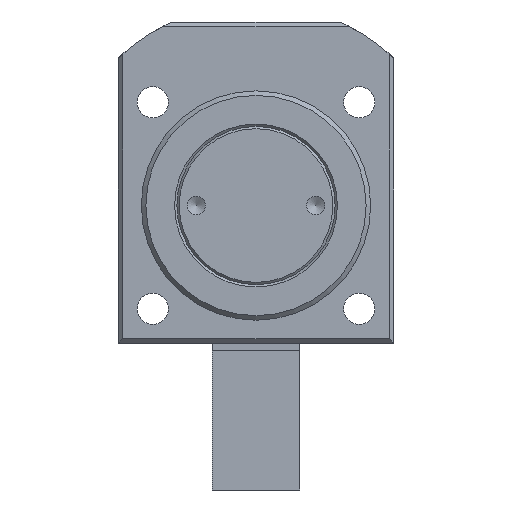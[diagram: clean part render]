
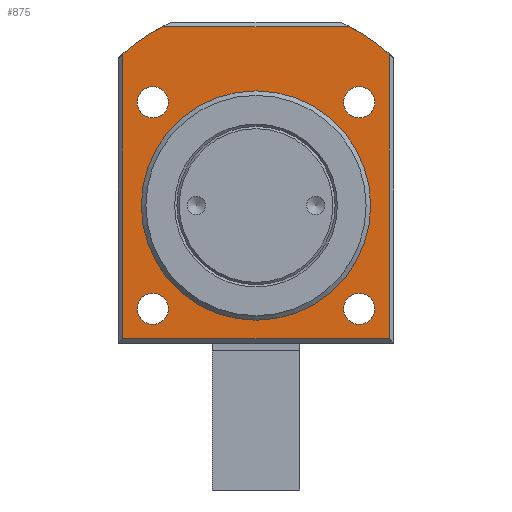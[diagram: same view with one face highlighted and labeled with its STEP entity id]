
A CAD part, front view. The second image highlights one B-rep face of the part: STEP entity #875.
In plain terms, the highlighted planar face has unit normal (0, -1, 0).
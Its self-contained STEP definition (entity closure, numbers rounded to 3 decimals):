
#267=FACE_BOUND('',#1387,.T.);
#268=FACE_BOUND('',#1388,.T.);
#269=FACE_BOUND('',#1389,.T.);
#270=FACE_BOUND('',#1390,.T.);
#271=FACE_BOUND('',#1391,.T.);
#272=FACE_BOUND('',#1392,.T.);
#364=LINE('',#5018,#616);
#365=LINE('',#5020,#617);
#366=LINE('',#5022,#618);
#367=LINE('',#5023,#619);
#616=VECTOR('',#3984,1.);
#617=VECTOR('',#3985,1.);
#618=VECTOR('',#3986,1.);
#619=VECTOR('',#3987,1.);
#875=ADVANCED_FACE('',(#267,#268,#269,#270,#271,#272),#1075,.T.);
#1075=PLANE('',#3506);
#1387=EDGE_LOOP('',(#1693));
#1388=EDGE_LOOP('',(#1694));
#1389=EDGE_LOOP('',(#1695));
#1390=EDGE_LOOP('',(#1696));
#1391=EDGE_LOOP('',(#1697));
#1392=EDGE_LOOP('',(#1698,#1699,#1700,#1701,#1702,#1703));
#1693=ORIENTED_EDGE('',*,*,#2852,.F.);
#1694=ORIENTED_EDGE('',*,*,#2850,.F.);
#1695=ORIENTED_EDGE('',*,*,#2848,.F.);
#1696=ORIENTED_EDGE('',*,*,#2846,.F.);
#1697=ORIENTED_EDGE('',*,*,#2845,.F.);
#1698=ORIENTED_EDGE('',*,*,#2859,.T.);
#1699=ORIENTED_EDGE('',*,*,#2878,.T.);
#1700=ORIENTED_EDGE('',*,*,#2879,.T.);
#1701=ORIENTED_EDGE('',*,*,#2880,.T.);
#1702=ORIENTED_EDGE('',*,*,#2868,.T.);
#1703=ORIENTED_EDGE('',*,*,#2881,.T.);
#2530=VERTEX_POINT('',#4947);
#2531=VERTEX_POINT('',#4950);
#2533=VERTEX_POINT('',#4955);
#2535=VERTEX_POINT('',#4960);
#2537=VERTEX_POINT('',#4965);
#2543=VERTEX_POINT('',#4978);
#2544=VERTEX_POINT('',#4980);
#2549=VERTEX_POINT('',#4997);
#2550=VERTEX_POINT('',#4999);
#2557=VERTEX_POINT('',#5019);
#2558=VERTEX_POINT('',#5021);
#2845=EDGE_CURVE('',#2530,#2530,#3284,.T.);
#2846=EDGE_CURVE('',#2531,#2531,#3285,.T.);
#2848=EDGE_CURVE('',#2533,#2533,#3287,.T.);
#2850=EDGE_CURVE('',#2535,#2535,#3289,.T.);
#2852=EDGE_CURVE('',#2537,#2537,#3291,.T.);
#2859=EDGE_CURVE('',#2544,#2543,#3293,.T.);
#2868=EDGE_CURVE('',#2550,#2549,#3296,.T.);
#2878=EDGE_CURVE('',#2543,#2557,#364,.T.);
#2879=EDGE_CURVE('',#2557,#2558,#365,.T.);
#2880=EDGE_CURVE('',#2558,#2550,#366,.T.);
#2881=EDGE_CURVE('',#2549,#2544,#367,.T.);
#3284=CIRCLE('',#3473,25.);
#3285=CIRCLE('',#3475,3.4);
#3287=CIRCLE('',#3478,3.4);
#3289=CIRCLE('',#3481,3.4);
#3291=CIRCLE('',#3484,3.4);
#3293=CIRCLE('',#3490,44.);
#3296=CIRCLE('',#3500,44.);
#3473=AXIS2_PLACEMENT_3D('',#4946,#3906,#3907);
#3475=AXIS2_PLACEMENT_3D('',#4949,#3910,#3911);
#3478=AXIS2_PLACEMENT_3D('',#4954,#3916,#3917);
#3481=AXIS2_PLACEMENT_3D('',#4959,#3922,#3923);
#3484=AXIS2_PLACEMENT_3D('',#4964,#3928,#3929);
#3490=AXIS2_PLACEMENT_3D('',#4979,#3942,#3943);
#3500=AXIS2_PLACEMENT_3D('',#4998,#3965,#3966);
#3506=AXIS2_PLACEMENT_3D('',#5024,#3988,#3989);
#3906=DIRECTION('',(0.,-1.,0.));
#3907=DIRECTION('',(0.,0.,-1.));
#3910=DIRECTION('',(0.,-1.,0.));
#3911=DIRECTION('',(0.,0.,-1.));
#3916=DIRECTION('',(0.,-1.,0.));
#3917=DIRECTION('',(0.,0.,-1.));
#3922=DIRECTION('',(0.,-1.,0.));
#3923=DIRECTION('',(0.,0.,-1.));
#3928=DIRECTION('',(0.,-1.,0.));
#3929=DIRECTION('',(0.,0.,-1.));
#3942=DIRECTION('',(0.,-1.,0.));
#3943=DIRECTION('',(0.,0.,-1.));
#3965=DIRECTION('',(0.,-1.,0.));
#3966=DIRECTION('',(0.,0.,-1.));
#3984=DIRECTION('',(0.,0.,-1.));
#3985=DIRECTION('',(1.,0.,0.));
#3986=DIRECTION('',(0.,0.,1.));
#3987=DIRECTION('',(-1.,0.,0.));
#3988=DIRECTION('',(0.,-1.,0.));
#3989=DIRECTION('',(0.,0.,-1.));
#4946=CARTESIAN_POINT('',(0.,53.,0.));
#4947=CARTESIAN_POINT('',(0.,53.,-25.));
#4949=CARTESIAN_POINT('',(-22.5,53.,-22.5));
#4950=CARTESIAN_POINT('',(-22.5,53.,-25.9));
#4954=CARTESIAN_POINT('',(22.5,53.,-22.5));
#4955=CARTESIAN_POINT('',(22.5,53.,-25.9));
#4959=CARTESIAN_POINT('',(22.5,53.,22.5));
#4960=CARTESIAN_POINT('',(22.5,53.,19.1));
#4964=CARTESIAN_POINT('',(-22.5,53.,22.5));
#4965=CARTESIAN_POINT('',(-22.5,53.,19.1));
#4978=CARTESIAN_POINT('',(-29.,53.,33.091));
#4979=CARTESIAN_POINT('',(0.,53.,0.));
#4980=CARTESIAN_POINT('',(-20.372,53.,39.));
#4997=CARTESIAN_POINT('',(20.372,53.,39.));
#4998=CARTESIAN_POINT('',(0.,53.,0.));
#4999=CARTESIAN_POINT('',(29.,53.,33.091));
#5018=CARTESIAN_POINT('',(-29.,53.,-30.));
#5019=CARTESIAN_POINT('',(-29.,53.,-29.));
#5020=CARTESIAN_POINT('',(30.,53.,-29.));
#5021=CARTESIAN_POINT('',(29.,53.,-29.));
#5022=CARTESIAN_POINT('',(29.,53.,32.187));
#5023=CARTESIAN_POINT('',(-18.33,53.,39.));
#5024=CARTESIAN_POINT('',(-45.061,53.,0.));
